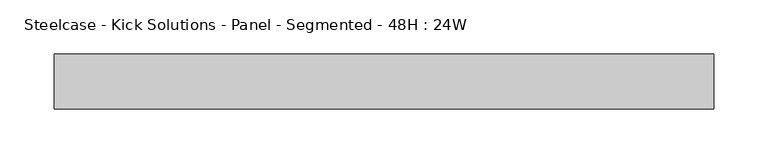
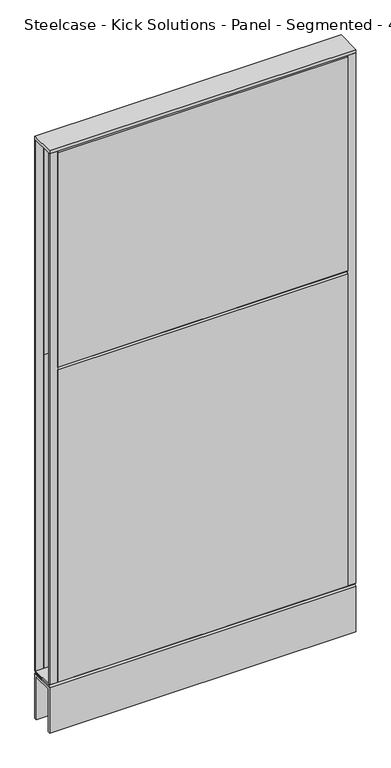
"""IFC4 building model written with IfcOpenShell, lengths in millimetres: furniture geometry, Steelcase - Kick Solutions - Panel - Segmented - 48H : 24W."""

from ifc_helpers import new_model, si_unit, frame, origin, place, context, project, spatial, polyline, outline, extrude, source, transform, mapped, element, save


def steelcase_kick_solutions_panel_segmented_48h_24w_a04a9ae0(model_context):
    return source(origin(), model_context, "Body", "SweptSolid", [
        extrude(outline(polyline([(1.5e-06, 765.0811552), (-3.175, 762.0), (-3.175, 1219.2), (1.5e-06, 1216.1188448), (1.5e-06, 765.0811552)])), frame((15.8749996, 0.0, 0.0), z_axis=(1.0, 0.0, 0.0), x_axis=(0.0, 1.0, 0.0)), (0.0, 0.0, 1.0), 577.8500008),
        extrude(outline(polyline([(1.5e-06, 101.600003), (-3.175, 101.600003), (-3.175, 762.0), (1.5e-06, 758.9188448), (1.5e-06, 101.600003)])), frame((15.8749996, 0.0, 0.0), z_axis=(1.0, 0.0, 0.0), x_axis=(0.0, 1.0, 0.0)), (0.0, 0.0, 1.0), 577.8500008),
        extrude(outline(polyline([(-50.8000015, 765.0811552), (-50.8000015, 1216.1188448), (-47.625, 1219.2), (-47.625, 762.0), (-50.8000015, 765.0811552)])), frame((15.8749996, 0.0, 0.0), z_axis=(1.0, 0.0, 0.0), x_axis=(0.0, 1.0, 0.0)), (0.0, 0.0, 1.0), 577.8500008),
        extrude(outline(polyline([(-50.8000015, 101.600003), (-50.8000015, 758.9188448), (-47.625, 762.0), (-47.625, 101.600003), (-50.8000015, 101.600003)])), frame((15.8749996, 0.0, 0.0), z_axis=(1.0, 0.0, 0.0), x_axis=(0.0, 1.0, 0.0)), (0.0, 0.0, 1.0), 577.8500008),
        extrude(outline(polyline([(609.6, -3.1750015), (593.7250004, -3.1750015), (593.7250004, 0.0), (609.6, 0.0), (609.6, -3.1750015)])), frame((0.0, 0.0, 101.7169049), z_axis=(0.0, 0.0, 1.0), x_axis=(1.0, 0.0, 0.0)), (0.0, 0.0, 1.0), 1117.599997),
        extrude(outline(polyline([(15.8749996, -50.8000015), (0.0, -50.8000015), (0.0, -47.625), (15.8749996, -47.625), (15.8749996, -50.8000015)])), frame((0.0, 0.0, 101.7169049), z_axis=(0.0, 0.0, 1.0), x_axis=(1.0, 0.0, 0.0)), (0.0, 0.0, 1.0), 1117.599997),
        extrude(outline(polyline([(-50.7995075, 101.7169049), (-0.000494, 101.7169049), (-3.0583512, 98.5421458), (-47.7416503, 98.5421458), (-50.7995075, 101.7169049)])), frame((0.0, 0.0, 0.0), z_axis=(1.0, 0.0, 0.0), x_axis=(0.0, 1.0, 0.0)), (0.0, 0.0, 1.0), 609.6),
        extrude(outline(polyline([(609.6, 0.0), (609.6, -50.8000015), (0.0, -50.8000015), (0.0, 0.0), (609.6, 0.0)])), frame((0.0, 0.0, 1219.3169018), z_axis=(0.0, 0.0, 1.0), x_axis=(1.0, 0.0, 0.0)), (0.0, 0.0, 1.0), 6.35),
        extrude(outline(polyline([(15.8749996, -3.1750015), (0.0, -3.1750015), (0.0, 0.0), (15.8749996, 0.0), (15.8749996, -3.1750015)])), frame((0.0, 0.0, 101.7169049), z_axis=(0.0, 0.0, 1.0), x_axis=(1.0, 0.0, 0.0)), (0.0, 0.0, 1.0), 1117.599997),
        extrude(outline(polyline([(609.6, -50.8000015), (593.7250004, -50.8000015), (593.7250004, -47.625), (609.6, -47.625), (609.6, -50.8000015)])), frame((0.0, 0.0, 101.7169049), z_axis=(0.0, 0.0, 1.0), x_axis=(1.0, 0.0, 0.0)), (0.0, 0.0, 1.0), 1117.599997),
        extrude(outline(polyline([(-50.8000015, 95.3668927), (-47.6247484, 98.5421458), (-3.1752531, 98.5421458), (0.0, 95.3668927), (-50.8000015, 95.3668927)])), frame((0.0, 0.0, 0.0), z_axis=(1.0, 0.0, 0.0), x_axis=(0.0, 1.0, 0.0)), (0.0, 0.0, 1.0), 609.6),
        extrude(outline(polyline([(0.0, 0.0), (-5.08, 0.0), (-5.08, 90.2869018), (-45.7200015, 90.2869018), (-45.7200015, 0.0), (-50.8000015, 0.0), (-50.8000015, 95.3669018), (0.0, 95.3669018), (0.0, 0.0)])), frame((0.0, 0.0, 0.0), z_axis=(1.0, 0.0, 0.0), x_axis=(0.0, 1.0, 0.0)), (0.0, 0.0, 1.0), 609.6),
    ])


if __name__ == "__main__":
    model = new_model("IFC4")
    model_context = context("Model", 3, world=origin())
    ifc_project = project(units=[si_unit("LENGTHUNIT", "METRE", prefix="MILLI")], contexts=[model_context])
    site = spatial("IfcSite", under=ifc_project)
    building = spatial("IfcBuilding", under=site)
    placement = place(None, origin())
    steelcase_kick_solutions_panel_segmented_48h_24w_shape = steelcase_kick_solutions_panel_segmented_48h_24w_a04a9ae0(model_context)
    element("IfcFurniture", 1, ObjectType="Steelcase - Kick Solutions - Panel - Segmented - 48H : 24W", at=placement, inside=building, context=model_context, shape_type="MappedRepresentation", body=[
        mapped(steelcase_kick_solutions_panel_segmented_48h_24w_shape, transform((0.0, 0.0, 0.0), x_axis=(1.0, 0.0, 0.0), y_axis=(0.0, 1.0, 0.0), z_axis=(0.0, 0.0, 1.0))),
    ])
    save(model, "model.ifc")
